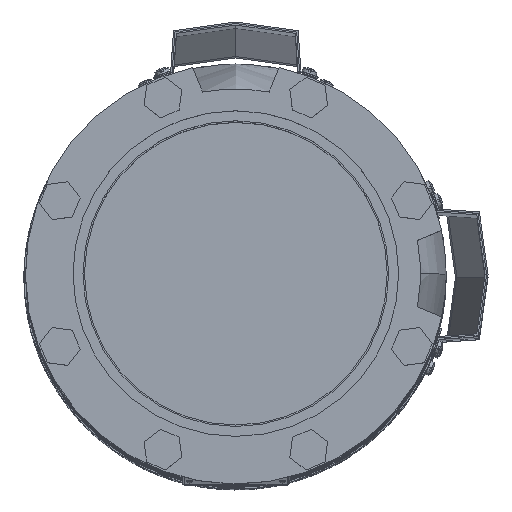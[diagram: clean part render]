
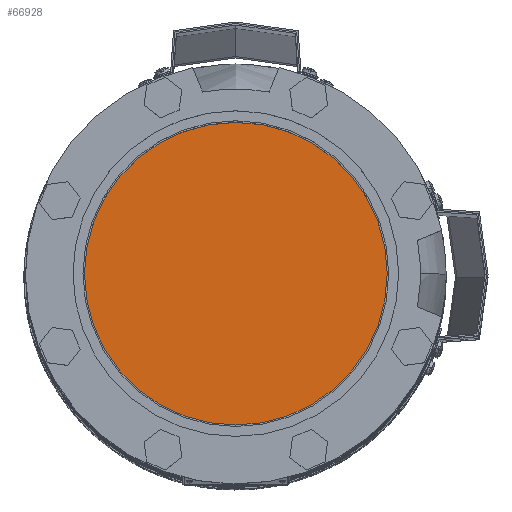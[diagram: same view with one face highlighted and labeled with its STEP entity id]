
A CAD part, top view. The second image highlights one B-rep face of the part: STEP entity #66928.
In plain terms, the highlighted planar face has unit normal (0, 0, 1) as drawn and (0, 1, 0) by its records, which use the part's own axes.
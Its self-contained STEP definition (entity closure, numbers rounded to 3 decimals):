
#620=CIRCLE('',#70534,102.5);
#621=CIRCLE('',#70535,102.5);
#16251=ORIENTED_EDGE('',*,*,#36515,.F.);
#16252=ORIENTED_EDGE('',*,*,#36516,.T.);
#36515=EDGE_CURVE('',#46647,#46648,#620,.T.);
#36516=EDGE_CURVE('',#46647,#46648,#621,.T.);
#46647=VERTEX_POINT('',#96537);
#46648=VERTEX_POINT('',#96538);
#54175=EDGE_LOOP('',(#16251,#16252));
#59038=FACE_BOUND('',#54175,.T.);
#63900=PLANE('',#70533);
#66928=ADVANCED_FACE('',(#59038),#63900,.T.);
#70533=AXIS2_PLACEMENT_3D('',#96535,#77093,#77094);
#70534=AXIS2_PLACEMENT_3D('',#96536,#77095,#77096);
#70535=AXIS2_PLACEMENT_3D('',#96539,#77097,#77098);
#77093=DIRECTION('',(0.,1.,0.));
#77094=DIRECTION('',(-1.,0.,0.));
#77095=DIRECTION('',(0.,-1.,0.));
#77096=DIRECTION('',(-1.,0.,0.));
#77097=DIRECTION('',(0.,1.,0.));
#77098=DIRECTION('',(-1.,0.,0.));
#96535=CARTESIAN_POINT('',(-109.56,216.5,0.));
#96536=CARTESIAN_POINT('',(0.,216.5,0.));
#96537=CARTESIAN_POINT('',(-102.5,216.5,0.));
#96538=CARTESIAN_POINT('',(102.5,216.5,0.));
#96539=CARTESIAN_POINT('',(0.,216.5,0.));
